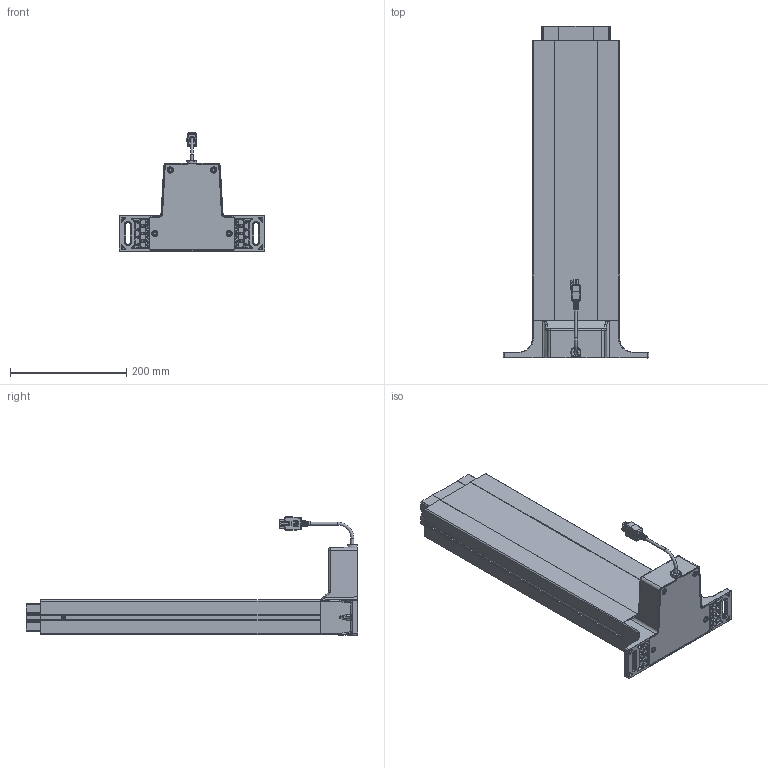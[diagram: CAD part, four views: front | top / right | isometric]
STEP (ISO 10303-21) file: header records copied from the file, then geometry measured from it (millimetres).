
FILE_DESCRIPTION(/* description */ ('Unknown'),/* implementation_level */ '2;1');
FILE_NAME(/* name */ '909.01003_01-Eingefahren',/* time_stamp */ '2024-12-03T11:16:36+01:00',/* author */ ('Unknown'),/* organization */ ('Unknown'),/* preprocessor_version */ 'ST-DEVELOPER v18.102',/* originating_system */ 'Solid Edge',/* authorisation */ 'Unknown');
FILE_SCHEMA (('AUTOMOTIVE_DESIGN {1 0 10303 214 3 1 1}'));
Products named in the file (10): 909.01003; 126.00190; 119.00554; 124.00124; 110.00120_oa_0; 128.00075; 119.00553; Kabel Molex; 142.00341; 142.00166
Assembly tree (13 placements, depth 2):
  909.01003
    126.00190
    119.00554
    124.00124
    110.00120_oa_0
    128.00075
    119.00553
    Kabel Molex
    142.00341  x2
    142.00166  x4
Bounding box: 250.17 x 570 x 203.2 mm (x, y, z)
Volume: 1737963.4 mm3; surface area: 1012595.3 mm2
Topology: 12 solids, 12 shells, 5740 faces, 13925 edges, 7980 vertices
Faces by surface type: cylinder 2074, bspline 1995, plane 1252, torus 247, cone 114, sphere 58
Full cylindrical faces by diameter (mm): 3 x3, 3.242 x4, 4 x2, 4.7 x4, 5 x6, 6 x4, 7 x2, 8.5 x4, 14 x1, 30 x2
Entity records: 393394 total; most frequent: CARTESIAN_POINT 271021, ORIENTED_EDGE 26628, DIRECTION 21686, EDGE_CURVE 13314, AXIS2_PLACEMENT_3D 8371, VERTEX_POINT 7862, EDGE_LOOP 5936, FACE_BOUND 5936
